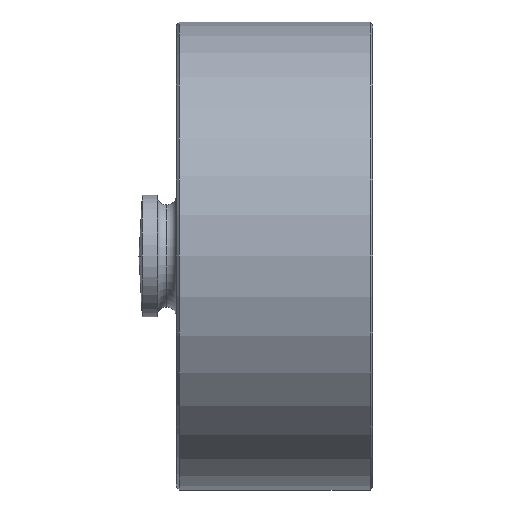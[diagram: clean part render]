
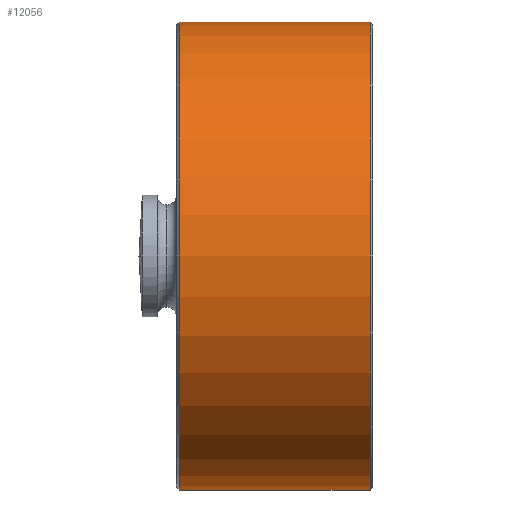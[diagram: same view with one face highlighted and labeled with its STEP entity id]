
A CAD part, left-side view. The second image highlights one B-rep face of the part: STEP entity #12056.
In plain terms, the highlighted cylindrical face has radius 25 mm (diameter 50 mm), a partial arc.
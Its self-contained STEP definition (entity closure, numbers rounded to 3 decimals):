
#149 = ORIENTED_EDGE ( 'NONE', *, *, #12188, .F. ) ;
#454 = ORIENTED_EDGE ( 'NONE', *, *, #6627, .T. ) ;
#903 = DIRECTION ( 'NONE',  ( 0., 1., 0. ) ) ;
#1831 = DIRECTION ( 'NONE',  ( 0., 1., 0. ) ) ;
#2207 = CARTESIAN_POINT ( 'NONE',  ( 0., 20.7, -25. ) ) ;
#2823 = ORIENTED_EDGE ( 'NONE', *, *, #15262, .T. ) ;
#3563 = VECTOR ( 'NONE', #4659, 1000. ) ;
#3704 = FACE_OUTER_BOUND ( 'NONE', #15931, .T. ) ;
#4154 = VECTOR ( 'NONE', #5452, 1000. ) ;
#4659 = DIRECTION ( 'NONE',  ( 0., 1., 0. ) ) ;
#5053 = CARTESIAN_POINT ( 'NONE',  ( 0., 20.7, 25. ) ) ;
#5452 = DIRECTION ( 'NONE',  ( 0., 1., 0. ) ) ;
#5534 = VERTEX_POINT ( 'NONE', #2207 ) ;
#5649 = EDGE_CURVE ( 'NONE', #5534, #17515, #15070, .T. ) ;
#6627 = EDGE_CURVE ( 'NONE', #14980, #17515, #12083, .T. ) ;
#7433 = CARTESIAN_POINT ( 'NONE',  ( 0., 0.3, -25. ) ) ;
#7742 = CARTESIAN_POINT ( 'NONE',  ( 0., 25., 25. ) ) ;
#8304 = AXIS2_PLACEMENT_3D ( 'NONE', #9740, #18512, #11195 ) ;
#8352 = LINE ( 'NONE', #8448, #4154 ) ;
#8448 = CARTESIAN_POINT ( 'NONE',  ( 0., 25., -25. ) ) ;
#8516 = CARTESIAN_POINT ( 'NONE',  ( 0., 0.3, 25. ) ) ;
#8541 = CARTESIAN_POINT ( 'NONE',  ( 0., 25., 0. ) ) ;
#8896 = CARTESIAN_POINT ( 'NONE',  ( 0., 0.3, 0. ) ) ;
#9593 = CYLINDRICAL_SURFACE ( 'NONE', #12475, 25. ) ;
#9740 = CARTESIAN_POINT ( 'NONE',  ( 0., 20.7, 0. ) ) ;
#11195 = DIRECTION ( 'NONE',  ( 0., 0., 1. ) ) ;
#11563 = ORIENTED_EDGE ( 'NONE', *, *, #5649, .F. ) ;
#12056 = ADVANCED_FACE ( 'NONE', ( #3704 ), #9593, .T. ) ;
#12083 = LINE ( 'NONE', #7742, #3563 ) ;
#12188 = EDGE_CURVE ( 'NONE', #15900, #5534, #8352, .T. ) ;
#12475 = AXIS2_PLACEMENT_3D ( 'NONE', #8541, #903, #14033 ) ;
#14033 = DIRECTION ( 'NONE',  ( 0., 0., 1. ) ) ;
#14980 = VERTEX_POINT ( 'NONE', #8516 ) ;
#15062 = DIRECTION ( 'NONE',  ( 0., 0., 1. ) ) ;
#15070 = CIRCLE ( 'NONE', #8304, 25. ) ;
#15262 = EDGE_CURVE ( 'NONE', #15900, #14980, #17393, .T. ) ;
#15900 = VERTEX_POINT ( 'NONE', #7433 ) ;
#15931 = EDGE_LOOP ( 'NONE', ( #149, #2823, #454, #11563 ) ) ;
#17393 = CIRCLE ( 'NONE', #17718, 25. ) ;
#17515 = VERTEX_POINT ( 'NONE', #5053 ) ;
#17718 = AXIS2_PLACEMENT_3D ( 'NONE', #8896, #1831, #15062 ) ;
#18512 = DIRECTION ( 'NONE',  ( 0., 1., 0. ) ) ;
